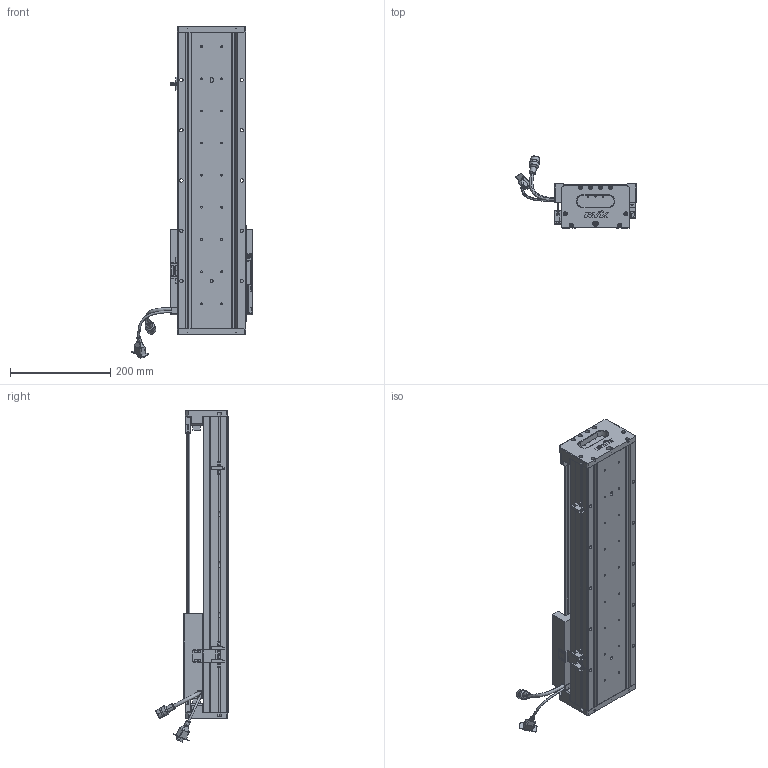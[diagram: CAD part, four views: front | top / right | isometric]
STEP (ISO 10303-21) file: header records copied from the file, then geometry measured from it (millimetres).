
FILE_DESCRIPTION (( 'STEP AP203' ), '1' );
FILE_NAME ('Z2-RY140D-1-L500-B-K.SLDASM_0350.step', '2021-05-17T07:44:45', ( '盈信电脑' ), ( '东莞市道滘镇水果街19号' ), 'SwSTEP 2.0', 'SolidWorks 2016', '' );
FILE_SCHEMA (( 'CONFIG_CONTROL_DESIGN' ));
Length unit declared in the file: millimetre
Products named in the file (36): 榋妏寠巭燃_暯_M2_2; SCREW-M1.7-1; HOLDER0; SCALE-Part-2; SHIELDPLATE; SCALE-Part-1; Z2-RY140-L500詩湍100mm遵_0350; SCREW-M1.6-3; Z-140詩湍傷裔啣; 140雄赽晤鎢ん堤盄; 覜茼ん672; SEAL; HARNESS-Part-1; 080黍杅芛假蚾釱21遴; SCREW-M1.6; 140-Z-臏賑輸盄裔(21遴); LABEL-Part-1; HARNESS-Part-2; SEAL-Part-1; HARNESS; LABEL; COVER; SCALE; Z-RY140感应器672光电感应片; Z2-RY140-L500直线电机模组底座_0350; PBU_SHEET; SCREW-M1.6-2; SCREW-M1.6-1; Z-RY140詩湍奻揤裔; Z2-RY140圉猾敕臏賑輸(21遴); Z2-RY140D-1-L500-B-K.SLDASM_0350; PSLH080_PSLF2; COVER-Part-1; Z-RY140詩湍狟揤裔; 140蚥薯蝶輸; SCREW-M1.7
Assembly tree (41 placements, depth 4):
  Z2-RY140D-1-L500-B-K.SLDASM_0350
    Z2-RY140-L500直线电机模组底座_0350
    Z-RY140感应器672光电感应片
    Z2-RY140圉猾敕臏賑輸(21遴)
    覜茼ん672  x3
    Z2-RY140-L500詩湍100mm遵_0350
    PSLH080_PSLF2
      SCALE
        SCALE-Part-1
        SCALE-Part-2
      HARNESS
        HARNESS-Part-1
        HARNESS-Part-2
      LABEL
        LABEL-Part-1
      COVER
        COVER-Part-1
      SEAL
        SEAL-Part-1
      榋妏寠巭燃_暯_M2_2
      SHIELDPLATE
      SCREW-M1.7
      SCREW-M1.7-1
      PBU_SHEET
      SCREW-M1.6
      SCREW-M1.6-1
      SCREW-M1.6-2
      SCREW-M1.6-3
      HOLDER0
    080黍杅芛假蚾釱21遴
    140-Z-臏賑輸盄裔(21遴)
    Z-140詩湍傷裔啣  x2
    Z-RY140詩湍狟揤裔  x2
    Z-RY140詩湍奻揤裔  x2
    140蚥薯蝶輸  x2
    140雄赽晤鎢ん堤盄
Bounding box: 239.84 x 143.77 x 660.88 mm (x, y, z)
Volume: 2681675.4 mm3; surface area: 701658.3 mm2
Topology: 36 solids, 36 shells, 2610 faces, 6782 edges, 4293 vertices
Faces by surface type: cylinder 1144, plane 1080, cone 254, torus 79, bspline 53
Entity records: 73822 total; most frequent: CARTESIAN_POINT 17781, DIRECTION 10942, ORIENTED_EDGE 10764, EDGE_CURVE 5382, AXIS2_PLACEMENT_3D 4002, VERTEX_POINT 3461, LINE 2938, VECTOR 2938
